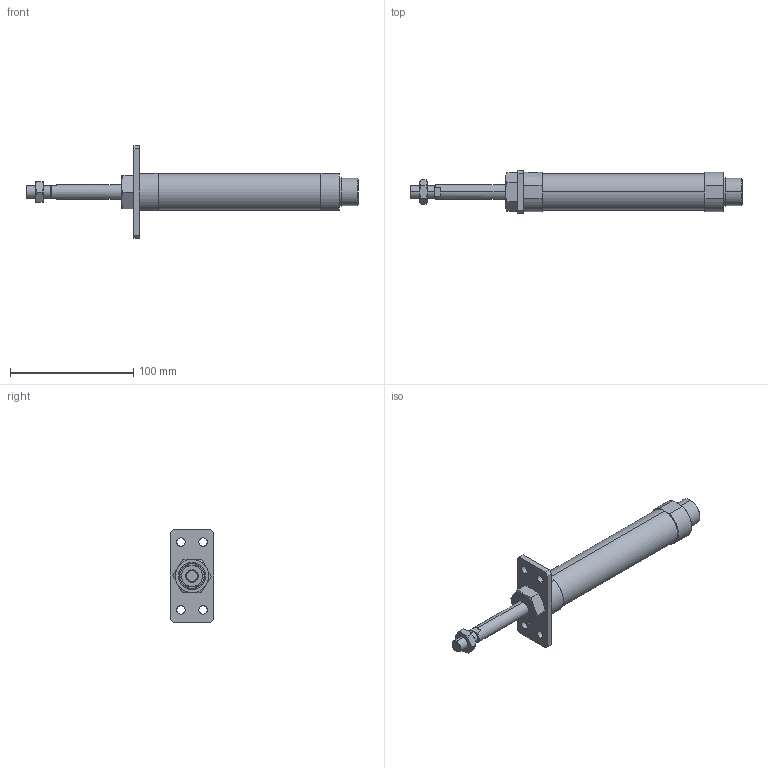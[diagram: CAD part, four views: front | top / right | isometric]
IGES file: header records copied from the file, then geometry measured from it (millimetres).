
Start section: SolidWorks IGES file using analytic representation for surfaces
Global section: file name: C:\Users\Toshiba\Desktop\J#0-25-50-A.IGS; native system: SolidWorks 2014; preprocessor: SolidWorks 2014; author: Toshiba; date: 160308.143553; units: millimetre
Bounding box: 269 x 35 x 75 mm (x, y, z)
Surface area: 31417.4 mm2 (no closed solid volume)
Topology: 0 solids, 0 shells, 113 faces, 2070 edges, 2068 vertices
Faces by surface type: bspline 71, revolution 42
